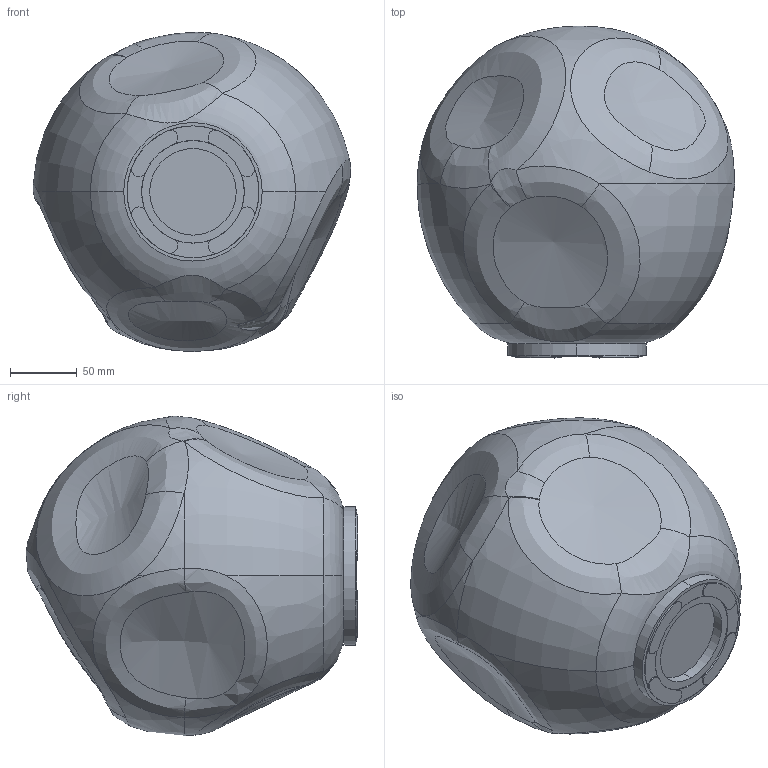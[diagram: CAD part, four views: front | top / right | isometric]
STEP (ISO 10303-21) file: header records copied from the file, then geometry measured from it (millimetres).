
FILE_DESCRIPTION (( 'STEP AP203' ), '1' );
FILE_NAME ('325_MEDIA_WC_ME_3D.STEP', '2023-09-01T14:43:02', ( '' ), ( '' ), 'SwSTEP 2.0', 'SolidWorks 2023', '' );
FILE_SCHEMA (( 'CONFIG_CONTROL_DESIGN' ));
Length unit declared in the file: millimetre
Products named in the file (1): 325_MEDIA_WC_ME_3D
Bounding box: 238.29 x 249.11 x 239.71 mm (x, y, z)
Volume: 567285.1 mm3; surface area: 366564.5 mm2
Topology: 2 solids, 2 shells, 112 faces, 338 edges, 232 vertices
Faces by surface type: bspline 60, cylinder 22, plane 12, torus 12, sphere 6
Entity records: 40006 total; most frequent: CARTESIAN_POINT 37338, ORIENTED_EDGE 668, DIRECTION 392, EDGE_CURVE 334, VERTEX_POINT 230, AXIS2_PLACEMENT_3D 181, B_SPLINE_CURVE_WITH_KNOTS 176, CIRCLE 128
